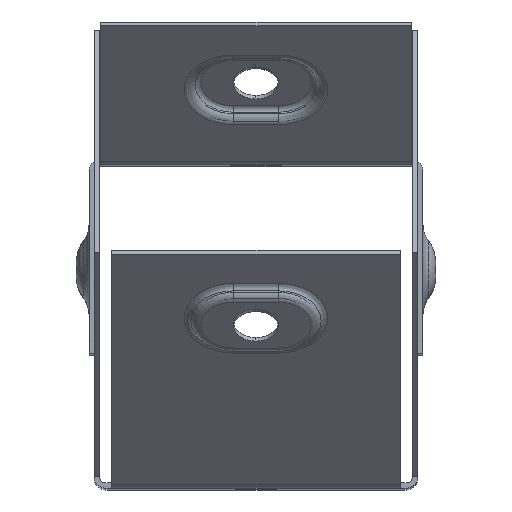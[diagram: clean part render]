
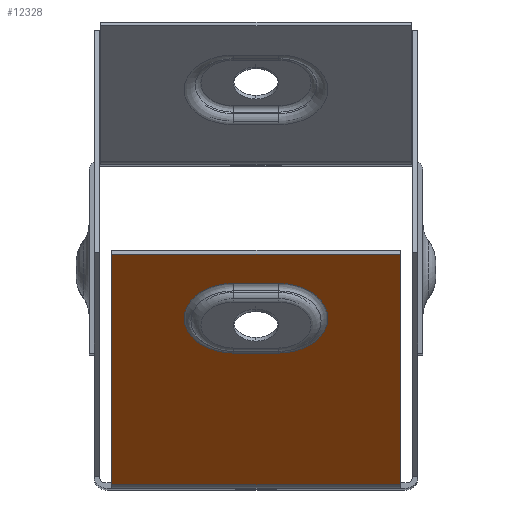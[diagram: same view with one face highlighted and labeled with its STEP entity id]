
A CAD part, top view. The second image highlights one B-rep face of the part: STEP entity #12328.
In plain terms, the highlighted planar face has unit normal (0, -0.707, 0.707).
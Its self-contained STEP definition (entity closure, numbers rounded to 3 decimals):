
#14 = CARTESIAN_POINT ( 'NONE',  ( -22.299, -50.8, 83.55 ) ) ;
#186 = VERTEX_POINT ( 'NONE', #2075 ) ;
#253 = EDGE_CURVE ( 'NONE', #11502, #3283, #2358, .T. ) ;
#502 = VECTOR ( 'NONE', #9703, 1000. ) ;
#1185 = LINE ( 'NONE', #5561, #502 ) ;
#1272 = CARTESIAN_POINT ( 'NONE',  ( 3.5, -19.229, 115.121 ) ) ;
#1365 = ORIENTED_EDGE ( 'NONE', *, *, #8071, .T. ) ;
#1470 = CARTESIAN_POINT ( 'NONE',  ( 3.5, -24.602, 109.748 ) ) ;
#1733 = EDGE_CURVE ( 'NONE', #7637, #10596, #1185, .T. ) ;
#2075 = CARTESIAN_POINT ( 'NONE',  ( -3.5, -29.974, 104.376 ) ) ;
#2100 = DIRECTION ( 'NONE',  ( 0., 0.707, 0.707 ) ) ;
#2157 = VECTOR ( 'NONE', #2312, 1000. ) ;
#2182 = ORIENTED_EDGE ( 'NONE', *, *, #8089, .T. ) ;
#2312 = DIRECTION ( 'NONE',  ( 1., 0., 0. ) ) ;
#2358 = LINE ( 'NONE', #4434, #12851 ) ;
#2360 = EDGE_LOOP ( 'NONE', ( #1365, #12260, #5786, #2182 ) ) ;
#2374 = DIRECTION ( 'NONE',  ( 0., 0.707, -0.707 ) ) ;
#2558 = DIRECTION ( 'NONE',  ( -1., 0., 0. ) ) ;
#3012 = CARTESIAN_POINT ( 'NONE',  ( -3.5, -19.229, 115.121 ) ) ;
#3061 = EDGE_CURVE ( 'NONE', #7421, #186, #11528, .T. ) ;
#3222 = CARTESIAN_POINT ( 'NONE',  ( 3.5, -29.974, 104.376 ) ) ;
#3283 = VERTEX_POINT ( 'NONE', #5984 ) ;
#3334 = CARTESIAN_POINT ( 'NONE',  ( 22.299, -50.273, 84.077 ) ) ;
#3417 = DIRECTION ( 'NONE',  ( -1., 0., 0. ) ) ;
#3480 = EDGE_LOOP ( 'NONE', ( #6926, #3966, #9267, #10178 ) ) ;
#3646 = LINE ( 'NONE', #13043, #4643 ) ;
#3857 = LINE ( 'NONE', #14, #4370 ) ;
#3966 = ORIENTED_EDGE ( 'NONE', *, *, #253, .F. ) ;
#4370 = VECTOR ( 'NONE', #6169, 1000. ) ;
#4434 = CARTESIAN_POINT ( 'NONE',  ( 23.2, -50.273, 84.077 ) ) ;
#4458 = CARTESIAN_POINT ( 'NONE',  ( 23.2, -50.8, 83.55 ) ) ;
#4643 = VECTOR ( 'NONE', #11155, 1000. ) ;
#4677 = FACE_OUTER_BOUND ( 'NONE', #3480, .T. ) ;
#4686 = VERTEX_POINT ( 'NONE', #3012 ) ;
#4696 = CARTESIAN_POINT ( 'NONE',  ( 22.299, -14.702, 119.648 ) ) ;
#4997 = FACE_BOUND ( 'NONE', #2360, .T. ) ;
#5152 = AXIS2_PLACEMENT_3D ( 'NONE', #1470, #9781, #8786 ) ;
#5359 = AXIS2_PLACEMENT_3D ( 'NONE', #10419, #8368, #2100 ) ;
#5485 = CARTESIAN_POINT ( 'NONE',  ( -22.299, -14.702, 119.648 ) ) ;
#5561 = CARTESIAN_POINT ( 'NONE',  ( 23.2, -14.702, 119.648 ) ) ;
#5786 = ORIENTED_EDGE ( 'NONE', *, *, #3061, .T. ) ;
#5972 = CARTESIAN_POINT ( 'NONE',  ( 3.5, -19.229, 115.121 ) ) ;
#5984 = CARTESIAN_POINT ( 'NONE',  ( -22.299, -50.273, 84.077 ) ) ;
#6075 = LINE ( 'NONE', #1272, #2157 ) ;
#6169 = DIRECTION ( 'NONE',  ( 0., -0.707, -0.707 ) ) ;
#6197 = EDGE_CURVE ( 'NONE', #10361, #7421, #6436, .T. ) ;
#6436 = CIRCLE ( 'NONE', #5152, 7.598 ) ;
#6926 = ORIENTED_EDGE ( 'NONE', *, *, #12008, .T. ) ;
#7421 = VERTEX_POINT ( 'NONE', #3222 ) ;
#7571 = EDGE_CURVE ( 'NONE', #11502, #7637, #3646, .T. ) ;
#7637 = VERTEX_POINT ( 'NONE', #4696 ) ;
#7837 = CIRCLE ( 'NONE', #5359, 7.598 ) ;
#8071 = EDGE_CURVE ( 'NONE', #4686, #10361, #6075, .T. ) ;
#8089 = EDGE_CURVE ( 'NONE', #186, #4686, #7837, .T. ) ;
#8368 = DIRECTION ( 'NONE',  ( 0., 0.707, -0.707 ) ) ;
#8686 = PLANE ( 'NONE',  #9652 ) ;
#8786 = DIRECTION ( 'NONE',  ( 0., 0.707, 0.707 ) ) ;
#9267 = ORIENTED_EDGE ( 'NONE', *, *, #7571, .T. ) ;
#9652 = AXIS2_PLACEMENT_3D ( 'NONE', #4458, #2374, #11589 ) ;
#9703 = DIRECTION ( 'NONE',  ( -1., 0., 0. ) ) ;
#9781 = DIRECTION ( 'NONE',  ( 0., 0.707, -0.707 ) ) ;
#9782 = CARTESIAN_POINT ( 'NONE',  ( 3.5, -29.974, 104.376 ) ) ;
#10178 = ORIENTED_EDGE ( 'NONE', *, *, #1733, .T. ) ;
#10361 = VERTEX_POINT ( 'NONE', #5972 ) ;
#10419 = CARTESIAN_POINT ( 'NONE',  ( -3.5, -24.602, 109.748 ) ) ;
#10562 = VECTOR ( 'NONE', #2558, 1000. ) ;
#10596 = VERTEX_POINT ( 'NONE', #5485 ) ;
#11155 = DIRECTION ( 'NONE',  ( 0., 0.707, 0.707 ) ) ;
#11502 = VERTEX_POINT ( 'NONE', #3334 ) ;
#11528 = LINE ( 'NONE', #9782, #10562 ) ;
#11589 = DIRECTION ( 'NONE',  ( 0., 0.707, 0.707 ) ) ;
#12008 = EDGE_CURVE ( 'NONE', #10596, #3283, #3857, .T. ) ;
#12260 = ORIENTED_EDGE ( 'NONE', *, *, #6197, .T. ) ;
#12328 = ADVANCED_FACE ( 'NONE', ( #4997, #4677 ), #8686, .F. ) ;
#12851 = VECTOR ( 'NONE', #3417, 1000. ) ;
#13043 = CARTESIAN_POINT ( 'NONE',  ( 22.299, -51.015, 83.335 ) ) ;
